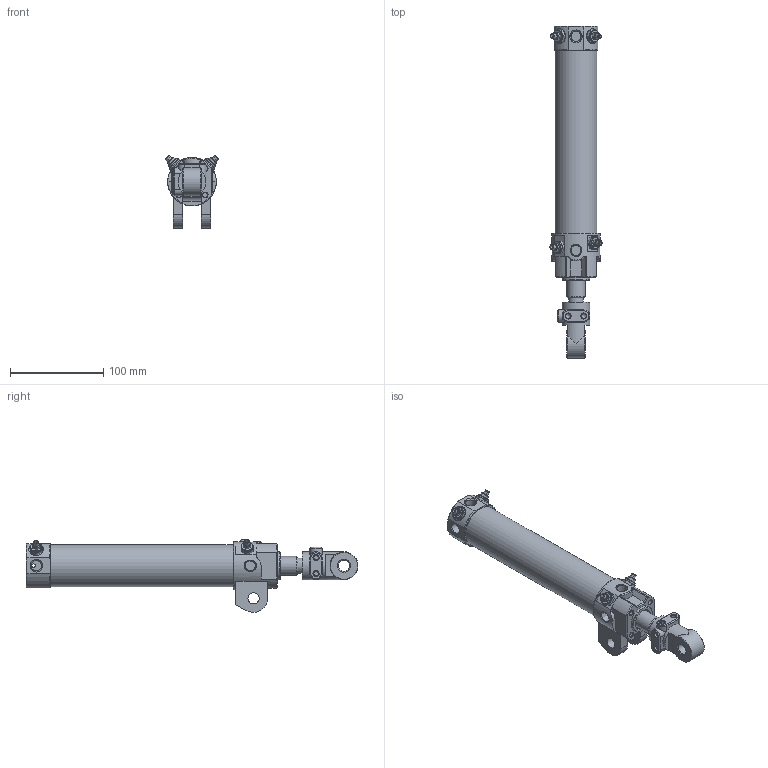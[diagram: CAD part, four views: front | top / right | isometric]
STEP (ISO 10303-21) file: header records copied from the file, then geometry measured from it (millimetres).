
FILE_DESCRIPTION((''),'2;1');
FILE_NAME('I:\3D電子目錄\氣缸\DCK\DCK\DCK-1B-40x150-I.stp','2008-02-26T10:57:23',('Administrator'),(''),'Autodesk Inventor 11','Autodesk Inventor 11','');
FILE_SCHEMA(('AUTOMOTIVE_DESIGN { 1 0 10303 214 1 1 1 1 }'));
Length unit declared in the file: millimetre
Products named in the file (6): DCK-1B-40-I; 緩衝針; 緩衝針-1; 緩衝針-201; 緩衝針-3
Assembly tree (8 placements, depth 3):
  DCK-1B-40-I
    DCK-1B-40-I
    緩衝針  x4
      緩衝針-1
      緩衝針-201
      緩衝針-3
Bounding box: 56.06 x 356 x 78.02 mm (x, y, z)
Volume: 243694.6 mm3; surface area: 116561.3 mm2
Topology: 16 solids, 16 shells, 688 faces, 1580 edges, 982 vertices
Faces by surface type: plane 234, cylinder 209, cone 144, bspline 64, torus 35, sphere 2
Full cylindrical faces by diameter (mm): 2 x1, 3 x3, 3.8 x2, 4 x6, 4.6 x4, 5 x8, 5.1 x4, 5.2 x12, 5.5 x4, 7 x1, 7.25 x1, 7.9 x4, 8 x2, 8.3 x1, 10 x2, 12 x3, 12.8 x4, 16 x3, 20 x1, 21 x1, 22 x3, 23 x1, 24.7 x1, 26 x1, 28 x1, 29 x1, 30 x3, 33 x1, 40 x1, 42 x2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
Entity records: 23172 total; most frequent: CARTESIAN_POINT 13940, DIRECTION 1810, ORIENTED_EDGE 1772, EDGE_CURVE 886, AXIS2_PLACEMENT_3D 781, EDGE_LOOP 625, VERTEX_POINT 617, FACE_OUTER_BOUND 437
